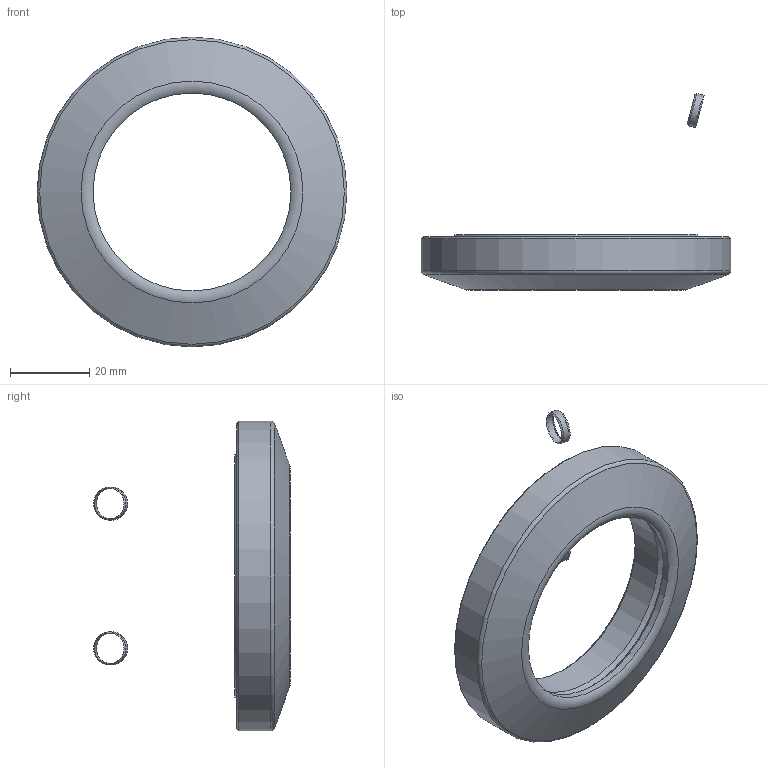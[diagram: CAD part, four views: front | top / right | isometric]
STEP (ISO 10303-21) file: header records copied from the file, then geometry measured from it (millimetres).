
FILE_DESCRIPTION(/* description */ ('Unknown'),/* implementation_level */ '2;1');
FILE_NAME(/* name */ '60-1420 SIMPLE',/* time_stamp */ '2023-07-12T12:52:00-07:00',/* author */ ('Unknown'),/* organization */ ('Unknown'),/* preprocessor_version */ 'ST-DEVELOPER v18.104',/* originating_system */ 'Solid Edge',/* authorisation */ 'Unknown');
FILE_SCHEMA (('AUTOMOTIVE_DESIGN {1 0 10303 214 3 1 1}'));
Length unit declared in the file: millimetre
Products named in the file (1): 60-1420 SIMPLE
Bounding box: 78.3 x 49.68 x 78.3 mm (x, y, z)
Volume: 25643.5 mm3; surface area: 22217.4 mm2
Topology: 24 solids, 24 shells, 68 faces, 162 edges, 107 vertices
Faces by surface type: sphere 18, cylinder 16, cone 14, plane 13, torus 7
Full cylindrical faces by diameter (mm): 7.734 x2, 8.379 x2, 50 x1, 50.8 x1, 59 x1, 59.032 x1, 61.5 x1, 62.4 x2, 69.7 x1, 73 x1, 74 x2, 78.3 x1
Entity records: 1485 total; most frequent: DIRECTION 238, CARTESIAN_POINT 187, AXIS2_PLACEMENT_3D 119, FACE_BOUND 118, ORIENTED_EDGE 100, EDGE_LOOP 100, VERTEX_POINT 68, ADVANCED_FACE 68
